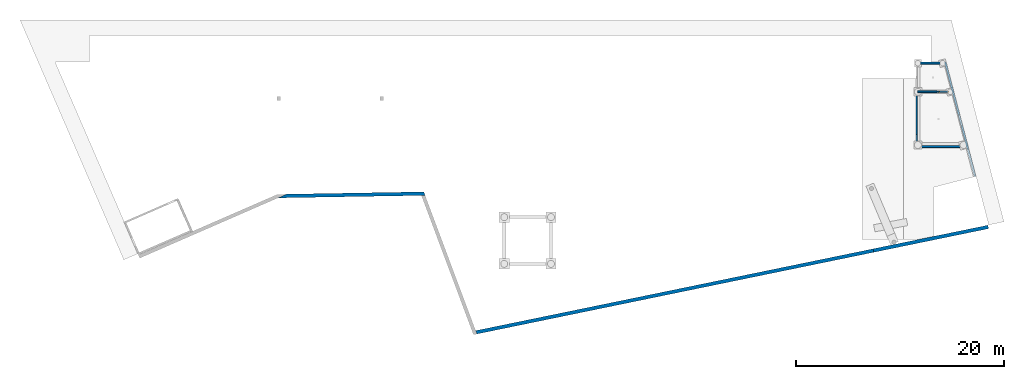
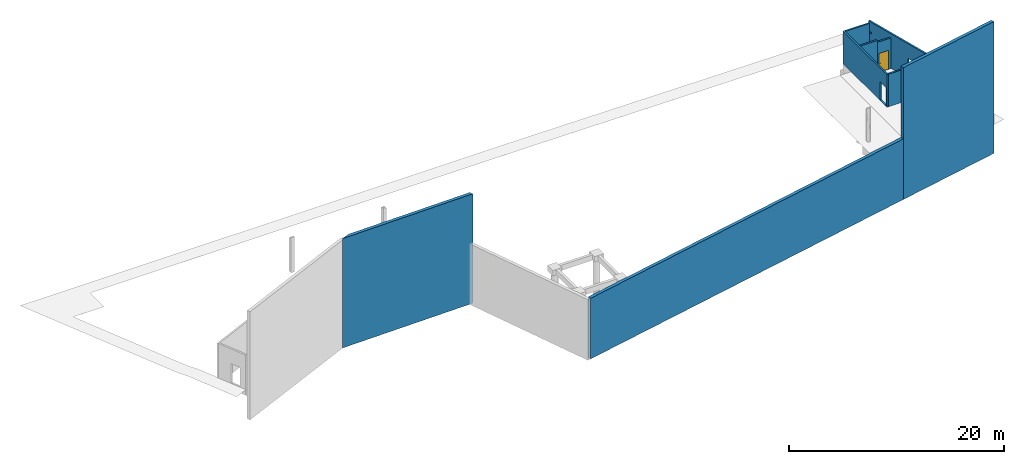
# One storey, part 2 of 5: 9 walls, 1 door, 10 openings.
"""IFC2X3 building model written with IfcOpenShell, lengths in centimetres."""

from ifc_helpers import new_model, entity, si_unit, converted_unit, derived_unit, direction, frame, frame_2d, origin, place, context, subcontext, project, spatial, polyline, rectangle, outline, extrude, faceted_brep, source, transform, mapped, material, material_list, layer, layer_set, layer_usage, type_object, type_shapes, element, fill, save


model = new_model("IFC2X3")

# Units and contexts
model_context = context("Model", 3, precision=0.001, world=origin(), true_north=direction((6.12303176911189e-17, 1.0)))
body_context = subcontext(model_context, "Body", "Model", "MODEL_VIEW")
ifc_project = project(units=[si_unit("LENGTHUNIT", "METRE", prefix="CENTI"), si_unit("AREAUNIT", "SQUARE_METRE"), si_unit("VOLUMEUNIT", "CUBIC_METRE"), converted_unit("PLANEANGLEUNIT", "DEGREE", entity("IfcRatioMeasure", 0.0174532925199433), si_unit("PLANEANGLEUNIT", "RADIAN"), dimensions=[0, 0, 0, 0, 0, 0, 0]), si_unit("MASSUNIT", "GRAM", prefix="KILO"), derived_unit("MASSDENSITYUNIT", [(si_unit("MASSUNIT", "GRAM", prefix="KILO"), 1), (si_unit("LENGTHUNIT", "METRE"), -3)]), si_unit("TIMEUNIT", "SECOND"), si_unit("FREQUENCYUNIT", "HERTZ"), si_unit("THERMODYNAMICTEMPERATUREUNIT", "DEGREE_CELSIUS"), derived_unit("THERMALTRANSMITTANCEUNIT", [(si_unit("MASSUNIT", "GRAM", prefix="KILO"), 1), (si_unit("THERMODYNAMICTEMPERATUREUNIT", "KELVIN"), -1), (si_unit("TIMEUNIT", "SECOND"), -3)]), derived_unit("VOLUMETRICFLOWRATEUNIT", [(si_unit("LENGTHUNIT", "METRE"), 3), (si_unit("TIMEUNIT", "SECOND"), -1)]), si_unit("ELECTRICCURRENTUNIT", "AMPERE"), si_unit("ELECTRICVOLTAGEUNIT", "VOLT"), si_unit("POWERUNIT", "WATT"), si_unit("FORCEUNIT", "NEWTON"), si_unit("ILLUMINANCEUNIT", "LUX"), si_unit("LUMINOUSFLUXUNIT", "LUMEN"), si_unit("LUMINOUSINTENSITYUNIT", "CANDELA"), derived_unit("USERDEFINED", [(si_unit("MASSUNIT", "GRAM", prefix="KILO"), -1), (si_unit("LENGTHUNIT", "METRE"), -2), (si_unit("TIMEUNIT", "SECOND"), 3), (si_unit("LUMINOUSFLUXUNIT", "LUMEN"), 1)]), derived_unit("LINEARVELOCITYUNIT", [(si_unit("LENGTHUNIT", "METRE"), 1), (si_unit("TIMEUNIT", "SECOND"), -1)]), si_unit("PRESSUREUNIT", "PASCAL"), derived_unit("USERDEFINED", [(si_unit("LENGTHUNIT", "METRE"), -2), (si_unit("MASSUNIT", "GRAM", prefix="KILO"), 1), (si_unit("TIMEUNIT", "SECOND"), -2)])], contexts=[model_context])

# Site, building, storey
site_placement = place(None, origin())
site = spatial("IfcSite", under=ifc_project, at=site_placement, Name="Default", CompositionType="ELEMENT")
building_placement = place(site_placement, origin())
building = spatial("IfcBuilding", under=site, at=building_placement, Name="CAGE 03", CompositionType="ELEMENT")
storey_placement = place(building_placement, frame((0.0, 0.0, -50.0)))
storey = spatial("IfcBuildingStorey", under=building, at=storey_placement, Name="+3.50", CompositionType="ELEMENT", Elevation=-50.0000000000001)

# Wall, opening
ifc_material_1 = material(Name="Béton, C25/30")
ifc_layer_1 = layer(ifc_material_1, 18.0)
ifc_layer_set_1 = layer_set([ifc_layer_1], Name="Mur de base:Voile BA 18")
ifc_layer_usage_1 = layer_usage(ifc_layer_set_1, "AXIS2", "POSITIVE", -9.0)
wall_type_1 = type_object("IfcWallType", Name="Mur de base:Voile BA 18", PredefinedType="STANDARD", material=ifc_layer_set_1)
wall_1_placement = place(storey_placement, frame((11037.3658201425, 5037.16066607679, -5.0), z_axis=(0.0, 0.0, 1.0), x_axis=(0.0, -1.0, 0.0)))
wall_1 = element("IfcWallStandardCase", 1, at=wall_1_placement, inside=storey, type_object=wall_type_1, material=ifc_layer_usage_1, Name="Mur de base:Voile BA 18", ObjectType="Mur de base:Voile BA 18", context=body_context, shape_type="SweptSolid", body=[
    extrude(rectangle(XDim=821.5, YDim=17.9999999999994, at=frame_2d((410.75, 1.53654866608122e-13), x_axis=(-1.0, 0.0))), origin(), (0.0, 0.0, 1.0), 372.0),
])
opening_1_placement = place(wall_1_placement, frame((5037.16066607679, -11037.3658201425, 0.0), z_axis=(0.0, 0.0, 1.0), x_axis=(0.0, 1.0, 0.0)))
element("IfcOpeningElement", 2, at=opening_1_placement, cuts=wall_1, Name="Mur de base:Voile BA 18", ObjectType="Opening", context=body_context, shape_type="SweptSolid", body=[
    extrude(rectangle(XDim=210.0, YDim=110.0, at=frame_2d((4.33431068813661e-13, 1.4210854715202e-14), x_axis=(0.0, 1.0))), frame((10893.9658201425, 4288.66066607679, 110.0), z_axis=(1.0, 0.0, 0.0), x_axis=(0.0, 1.0, 0.0)), (0.0, 0.0, 1.0), 304.8),
])

# Wall
ifc_layer_usage_2 = layer_usage(ifc_layer_set_1, "AXIS2", "POSITIVE", -9.0)
wall_2_placement = place(storey_placement, frame((11516.7413753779, 4224.66066607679, -5.0), z_axis=(0.0, 0.0, 1.0), x_axis=(-1.0, 0.0, 0.0)))
element("IfcWallStandardCase", 3, at=wall_2_placement, inside=storey, type_object=wall_type_1, material=ifc_layer_usage_2, Name="Mur de base:Voile BA 18", ObjectType="Mur de base:Voile BA 18", context=body_context, shape_type="SweptSolid", body=[
    extrude(outline(polyline([(470.375555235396, -9.0), (470.375555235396, 9.0), (0.0, 9.0), (4.70077462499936, -9.0), (470.375555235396, -9.0)])), origin(), (0.0, 0.0, 1.0), 372.0),
])

# Wall, opening, door
ifc_layer_usage_3 = layer_usage(ifc_layer_set_1, "AXIS2", "POSITIVE", -9.0)
wall_3_placement = place(storey_placement, frame((11378.8519863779, 4752.66066607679, -5.0), z_axis=(0.0, 0.0, 1.0), x_axis=(-1.0, 0.0, 0.0)))
wall_3 = element("IfcWallStandardCase", 4, at=wall_3_placement, inside=storey, type_object=wall_type_1, material=ifc_layer_usage_3, Name="Mur de base:Voile BA 18", ObjectType="Mur de base:Voile BA 18", context=body_context, shape_type="SweptSolid", body=[
    extrude(outline(polyline([(148.486166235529, -9.0), (148.486166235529, 9.0), (0.0, 9.0), (4.70077462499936, -9.0), (148.486166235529, -9.0)])), origin(), (0.0, 0.0, 1.0), 350.0),
])
opening_2_placement = place(wall_3_placement, frame((31.9861662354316, -9.0, 5.0)))
opening_2 = element("IfcOpeningElement", 5, at=opening_2_placement, cuts=wall_3, Name="Int. Simple:HB93:1", ObjectType="Opening", context=body_context, shape_type="SweptSolid", body=[
    extrude(rectangle(XDim=210.000000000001, YDim=96.9999999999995, at=frame_2d((105.000000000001, 48.4999999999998), x_axis=(1.0, 0.0))), frame((0.0, 0.0, 0.0), z_axis=(0.0, 1.0, 0.0), x_axis=(0.0, 0.0, 1.0)), (0.0, 0.0, 1.0), 18.0),
])
ifc_material_2 = material(Name="Finition Peinture - Blanc satiné")
ifc_material_3 = material(Name="Bois - Panneau de porte")
ifc_material_4 = material(Name="Bois - Cadre de porte")
ifc_material_list_1 = material_list([ifc_material_2, ifc_material_3, ifc_material_4])
ifc_material_list_2 = material_list([ifc_material_2, ifc_material_3, ifc_material_4])
door_style = type_object("IfcDoorStyle", Name="HB93", ConstructionType="NOTDEFINED", OperationType="SINGLE_SWING_LEFT", ParameterTakesPrecedence=False, Sizeable=False, material=ifc_material_list_2)
shared_shape = source(origin(), body_context, "Body", "Brep", [
    faceted_brep([(10.5352761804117, -0.500000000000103, 86.6003983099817), (11.5000000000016, -0.500000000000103, 87.0), (11.5000000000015, -0.500000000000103, 108.0), (10.5352761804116, -0.500000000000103, 108.399601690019), (9.50000000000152, -0.500000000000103, 108.535898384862), (8.46472381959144, -0.500000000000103, 108.399601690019), (7.50000000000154, -0.500000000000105, 108.0), (7.50000000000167, -0.500000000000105, 87.0), (8.46472381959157, -0.500000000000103, 86.6003983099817), (9.50000000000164, -0.500000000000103, 86.464101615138), (10.5352761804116, 0.0, 108.399601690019), (11.5000000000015, 0.0, 108.0), (11.5000000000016, 0.0, 87.0), (10.5352761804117, 0.0, 86.6003983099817), (9.50000000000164, 0.0, 86.464101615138), (8.46472381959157, 0.0, 86.6003983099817), (7.50000000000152, 0.0, 87.0), (7.50000000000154, 0.0, 108.0), (8.46472381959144, 0.0, 108.399601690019), (9.50000000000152, 0.0, 108.535898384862)], [[[0, 1, 2, 3, 4, 5, 6, 7, 8, 9]], [[10, 11, 12, 13, 14, 15, 16, 17, 18, 19]], [[16, 15, 8, 7]], [[8, 15, 14, 9]], [[14, 13, 0, 9]], [[13, 12, 1, 0]], [[2, 1, 12, 11]], [[11, 10, 3, 2]], [[3, 10, 19, 4]], [[19, 18, 5, 4]], [[18, 17, 6, 5]], [[7, 6, 17, 16]]]),
    faceted_brep([(10.5352761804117, 4.0, 86.6003983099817), (11.5000000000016, 4.0, 87.0), (11.5000000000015, 4.0, 108.0), (10.5352761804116, 4.0, 108.399601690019), (9.50000000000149, 4.0, 108.535898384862), (8.46472381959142, 4.0, 108.399601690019), (7.50000000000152, 4.0, 108.0), (7.50000000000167, 4.0, 87.0), (8.46472381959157, 4.0, 86.6003983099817), (9.50000000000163, 4.0, 86.464101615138), (10.5352761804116, 4.49999999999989, 108.399601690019), (11.5000000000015, 4.4999999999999, 108.0), (11.5000000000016, 4.4999999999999, 87.0), (10.5352761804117, 4.49999999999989, 86.6003983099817), (9.50000000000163, 4.49999999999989, 86.464101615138), (8.46472381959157, 4.49999999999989, 86.6003983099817), (7.50000000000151, 4.49999999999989, 87.0), (7.50000000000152, 4.49999999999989, 108.0), (8.46472381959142, 4.49999999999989, 108.399601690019), (9.50000000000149, 4.49999999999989, 108.535898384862)], [[[0, 1, 2, 3, 4, 5, 6, 7, 8, 9]], [[10, 11, 12, 13, 14, 15, 16, 17, 18, 19]], [[11, 10, 3, 2]], [[3, 10, 19, 4]], [[19, 18, 5, 4]], [[18, 17, 6, 5]], [[7, 6, 17, 16]], [[16, 15, 8, 7]], [[8, 15, 14, 9]], [[14, 13, 0, 9]], [[13, 12, 1, 0]], [[2, 1, 12, 11]]]),
    faceted_brep([(9.29747013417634, -0.500000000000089, 100.778044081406), (9.70252986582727, -0.500000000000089, 100.778044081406), (10.1000000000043, -0.500000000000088, 100.699999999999), (10.1000000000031, -0.500000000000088, 99.3000000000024), (9.70252986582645, -0.500000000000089, 99.2219559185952), (9.29747013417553, -0.500000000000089, 99.221955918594), (8.89999999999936, -0.500000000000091, 99.2999999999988), (8.89999999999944, -0.500000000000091, 100.7), (8.89999999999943, -3.26509507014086, 100.7), (9.29747013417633, -3.10045754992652, 100.778044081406), (10.9023585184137, -4.70534593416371, 100.778044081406), (11.0701397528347, -4.30028620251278, 100.778044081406), (9.70252986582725, -2.93267631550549, 100.778044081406), (10.1000000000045, -2.76803879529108, 100.7), (10.1000000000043, -2.76803879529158, 99.3000000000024), (9.70252986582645, -2.93267631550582, 99.2219559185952), (11.0701397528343, -4.30028620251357, 99.2219559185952), (10.9023585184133, -4.70534593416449, 99.221955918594), (9.29747013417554, -3.10045754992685, 99.221955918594), (8.89999999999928, -3.26509507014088, 99.2999999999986), (10.7377209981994, -5.1028160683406, 100.7), (11.2347772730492, -3.90281606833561, 100.7), (11.2347772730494, -3.90281606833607, 99.3000000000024), (10.7377209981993, -5.10281606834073, 99.2999999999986), (19.5018640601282, -5.1028160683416, 99.2999999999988), (19.5018640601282, -4.70534593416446, 99.221955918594), (19.5018640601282, -4.30028620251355, 99.2219559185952), (19.5018640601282, -3.90281606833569, 99.3000000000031), (19.5018640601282, -3.90281606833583, 100.7), (19.5018640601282, -4.30028620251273, 100.778044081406), (19.5018640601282, -4.70534593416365, 100.778044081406), (19.5018640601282, -5.10281606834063, 100.699999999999), (14.7307697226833, -5.10281606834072, 100.7), (15.28600190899, -4.5028160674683, 100.78786867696), (15.3683206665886, -3.9028160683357, 100.7), (15.3683206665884, -3.90281606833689, 99.3000000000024), (15.2860018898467, -4.50281607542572, 99.2121313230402), (14.7307700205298, -5.10281606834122, 99.2999999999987)], [[[0, 1, 2, 3, 4, 5, 6, 7]], [[8, 9, 0, 7]], [[9, 10, 11, 12, 1, 0]], [[12, 13, 2, 1]], [[3, 2, 13, 14]], [[14, 15, 4, 3]], [[15, 16, 17, 18, 5, 4]], [[18, 19, 6, 5]], [[7, 6, 19, 8]], [[20, 10, 9, 8]], [[11, 21, 13, 12]], [[14, 13, 21, 22]], [[22, 16, 15, 14]], [[17, 23, 19, 18]], [[8, 19, 23, 20]], [[24, 25, 26, 27, 28, 29, 30, 31]], [[32, 30, 33]], [[31, 30, 32]], [[10, 20, 32]], [[33, 34, 11]], [[21, 11, 34]], [[34, 29, 28]], [[30, 29, 33]], [[29, 34, 33]], [[10, 32, 33]], [[10, 33, 11]], [[22, 21, 34, 28, 27, 35]], [[35, 26, 36]], [[37, 36, 25]], [[22, 35, 16]], [[35, 27, 26]], [[24, 37, 25]], [[23, 17, 37]], [[37, 17, 36]], [[17, 16, 36]], [[16, 35, 36]], [[25, 36, 26]], [[20, 23, 37, 24, 31, 32]]]),
    faceted_brep([(9.29747013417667, 4.49999999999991, 100.778044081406), (8.89999999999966, 4.49999999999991, 100.7), (8.89999999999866, 4.49999999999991, 99.2999999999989), (9.2974701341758, 4.49999999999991, 99.221955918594), (9.70252986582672, 4.49999999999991, 99.2219559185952), (10.1000000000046, 4.49999999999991, 99.3000000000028), (10.1000000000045, 4.49999999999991, 100.7), (9.70252986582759, 4.49999999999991, 100.778044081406), (10.1000000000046, 6.7485204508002, 99.3000000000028), (10.1000000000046, 6.74852045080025, 100.7), (9.70252986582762, 6.91315797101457, 100.778044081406), (11.0838906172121, 8.29451872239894, 100.778044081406), (10.9161093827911, 8.69957845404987, 100.778044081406), (9.29747013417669, 7.0809392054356, 100.778044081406), (8.89999999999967, 7.24557672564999, 100.7), (8.89999999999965, 7.24557672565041, 99.2999999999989), (9.29747013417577, 7.08093920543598, 99.221955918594), (10.9161093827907, 8.69957845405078, 99.221955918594), (11.0838906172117, 8.29451872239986, 99.2219559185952), (9.7025298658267, 6.91315797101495, 99.2219559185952), (11.2485281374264, 7.89704858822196, 99.3000000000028), (11.2485281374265, 7.89704858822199, 100.7), (10.7514718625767, 9.0970485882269, 100.7), (10.751471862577, 9.0970485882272, 99.2999999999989), (19.504578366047, 7.89704858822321, 99.3000000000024), (19.504578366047, 8.29451872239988, 99.2219559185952), (19.504578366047, 8.6995784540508, 99.221955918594), (19.504578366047, 9.09704858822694, 99.2999999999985), (19.504578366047, 9.09704858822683, 100.7), (19.504578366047, 8.69957845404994, 100.778044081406), (19.504578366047, 8.29451872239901, 100.778044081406), (19.504578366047, 7.89704858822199, 100.7), (15.3765520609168, 7.89704858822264, 99.3000000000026), (15.3765532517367, 7.89704858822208, 100.7), (15.294234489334, 8.49704858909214, 100.78786867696), (14.7445205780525, 9.09704858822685, 100.7), (14.7445204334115, 9.09704858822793, 99.2999999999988), (15.2942345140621, 8.49704858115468, 99.2121313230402)], [[[0, 1, 2, 3, 4, 5, 6, 7]], [[6, 5, 8, 9]], [[9, 10, 7, 6]], [[10, 11, 12, 13, 0, 7]], [[13, 14, 1, 0]], [[2, 1, 14, 15]], [[15, 16, 3, 2]], [[16, 17, 18, 19, 4, 3]], [[19, 8, 5, 4]], [[9, 8, 20, 21]], [[21, 11, 10, 9]], [[12, 22, 14, 13]], [[15, 14, 22, 23]], [[23, 17, 16, 15]], [[18, 20, 8, 19]], [[24, 25, 26, 27, 28, 29, 30, 31]], [[21, 20, 32, 24, 31, 33]], [[33, 30, 34]], [[35, 34, 29]], [[21, 33, 11]], [[33, 31, 30]], [[28, 35, 29]], [[22, 12, 35]], [[35, 12, 34]], [[12, 11, 34]], [[11, 33, 34]], [[29, 34, 30]], [[22, 35, 28, 27, 36, 23]], [[36, 26, 37]], [[27, 26, 36]], [[17, 23, 36]], [[37, 32, 18]], [[20, 18, 32]], [[32, 25, 24]], [[26, 25, 37]], [[25, 32, 37]], [[17, 36, 37]], [[17, 37, 18]]]),
    faceted_brep([(3.50000000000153, 4.0, 206.5), (93.5000000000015, 4.0, 206.5), (93.5000000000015, 4.0, 0.0), (3.50000000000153, 4.0, 0.0), (3.50000000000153, 0.0, 206.5), (3.50000000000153, 0.0, 0.0), (93.5000000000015, 0.0, 0.0), (93.5000000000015, 0.0, 206.5)], [[[0, 1, 2, 3]], [[4, 5, 6, 7]], [[1, 0, 4, 7]], [[2, 1, 7, 6]], [[3, 2, 6, 5]], [[0, 3, 5, 4]]]),
    faceted_brep([(0.0, 0.0, 0.0), (0.0, 18.0, 0.0), (5.0, 18.0, 0.0), (5.0, 4.0, 0.0), (3.50000000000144, 4.0, 0.0), (3.50000000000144, 0.0, 0.0), (0.0, 0.0, 210.0), (0.0, 18.0, 210.0), (97.0, 18.0, 210.0), (97.0, 18.0, 0.0), (92.0, 18.0, 0.0), (92.0, 18.0, 205.0), (5.0, 18.0, 205.0), (5.0, 4.0, 205.0), (92.0, 4.0, 205.0), (92.0, 4.0, 0.0), (93.4999999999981, 4.0, 0.0), (93.4999999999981, 4.0, 206.5), (3.50000000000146, 4.0, 206.5), (3.50000000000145, 0.0, 206.5), (93.4999999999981, 0.0, 206.5), (93.4999999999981, 0.0, 0.0), (97.0, 0.0, 0.0), (97.0, 0.0, 210.0)], [[[0, 1, 2, 3, 4, 5]], [[1, 0, 6, 7]], [[2, 1, 7, 8, 9, 10, 11, 12]], [[3, 2, 12, 13]], [[4, 3, 13, 14, 15, 16, 17, 18]], [[5, 4, 18, 19]], [[0, 5, 19, 20, 21, 22, 23, 6]], [[8, 23, 22, 9]], [[22, 21, 16, 15, 10, 9]], [[14, 11, 10, 15]], [[20, 17, 16, 21]], [[7, 6, 23, 8]], [[13, 12, 11, 14]], [[19, 18, 17, 20]]]),
    faceted_brep([(1.5, 18.0, 0.0), (-1.49999999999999, 18.0, 0.0), (-1.49999999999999, 18.5000000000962, 0.0), (1.5, 18.5000000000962, 0.0), (1.5, 18.0, 208.500000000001), (95.4999999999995, 18.0, 208.500000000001), (95.4999999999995, 18.0, 0.0), (98.4999999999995, 18.0, 0.0), (98.4999999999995, 18.0, 211.500000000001), (-1.49999999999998, 18.0, 211.500000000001), (-1.49999999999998, 18.5000000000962, 211.500000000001), (98.4999999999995, 18.5000000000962, 211.500000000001), (98.4999999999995, 18.5000000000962, 0.0), (95.4999999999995, 18.5000000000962, 0.0), (95.4999999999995, 18.5000000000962, 208.500000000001), (1.50000000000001, 18.5000000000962, 208.500000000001)], [[[0, 1, 2, 3]], [[1, 0, 4, 5, 6, 7, 8, 9]], [[2, 1, 9, 10]], [[3, 2, 10, 11, 12, 13, 14, 15]], [[0, 3, 15, 4]], [[6, 13, 12, 7]], [[5, 14, 13, 6]], [[11, 8, 7, 12]], [[10, 9, 8, 11]], [[4, 15, 14, 5]]]),
    faceted_brep([(-1.49999999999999, -0.5, 0.0), (1.5, -0.5, 0.0), (1.5, -0.5, 208.500000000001), (95.4999999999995, -0.5, 208.500000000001), (95.4999999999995, -0.5, 0.0), (98.4999999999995, -0.5, 0.0), (98.4999999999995, -0.5, 211.500000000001), (-1.49999999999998, -0.5, 211.500000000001), (-1.49999999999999, 0.0, 0.0), (-1.49999999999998, 0.0, 211.500000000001), (1.5, 0.0, 0.0), (98.4999999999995, 0.0, 211.500000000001), (98.4999999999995, 0.0, 0.0), (95.4999999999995, 0.0, 0.0), (95.4999999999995, 0.0, 208.500000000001), (1.50000000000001, 0.0, 208.500000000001)], [[[0, 1, 2, 3, 4, 5, 6, 7]], [[8, 0, 7, 9]], [[10, 8, 9, 11, 12, 13, 14, 15]], [[1, 10, 15, 2]], [[3, 14, 13, 4]], [[11, 6, 5, 12]], [[9, 7, 6, 11]], [[2, 15, 14, 3]], [[4, 13, 12, 5]], [[1, 0, 8, 10]]]),
])
type_shapes(door_style, [shared_shape])
door_placement = place(opening_2_placement, frame((97.0, 18.0, 0.0), z_axis=(0.0, 0.0, 1.0), x_axis=(-1.0, 0.0, 0.0)))
door = element("IfcDoor", 6, at=door_placement, inside=storey, type_object=door_style, material=ifc_material_list_1, Name="Int. Simple:HB93", ObjectType="HB93", OverallHeight=210.000000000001, OverallWidth=96.9999999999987, context=body_context, shape_type="MappedRepresentation", body=[
    mapped(shared_shape, transform((0.0, 0.0, 0.0), scale=1.0)),
])
fill(opening_2, door)

# Wall, opening
ifc_layer_usage_4 = layer_usage(ifc_layer_set_1, "AXIS2", "POSITIVE", -9.0)
wall_4_placement = place(storey_placement, frame((11306.9040192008, 5028.16066607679, -5.0), z_axis=(0.0, 0.0, 1.0), x_axis=(-1.0, 0.0, 0.0)))
wall_4 = element("IfcWallStandardCase", 7, at=wall_4_placement, inside=storey, type_object=wall_type_1, material=ifc_layer_usage_4, Name="Mur de base:Voile BA 18", ObjectType="Mur de base:Voile BA 18", context=body_context, shape_type="SweptSolid", body=[
    extrude(outline(polyline([(0.0, 9.0), (4.70077462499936, -9.0), (130.538199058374, -9.0), (206.038199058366, -9.0), (251.038199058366, -9.0), (260.538199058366, -9.0), (260.538199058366, 9.0), (238.538199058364, 9.0), (0.0, 9.0)])), origin(), (0.0, 0.0, 1.0), 372.0),
])
opening_3_placement = place(wall_4_placement, origin())
element("IfcOpeningElement", 8, at=opening_3_placement, cuts=wall_4, Name="Mur de base:Voile BA 18", ObjectType="Opening", context=body_context, shape_type="SweptSolid", body=[
    extrude(rectangle(XDim=319.0, YDim=17.9999999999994, at=frame_2d((0.0, 0.0), x_axis=(0.0, 1.0))), frame((139.538199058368, -247.499999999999, 172.5), z_axis=(0.0, 1.0, 0.0), x_axis=(-1.0, 0.0, 0.0)), (0.0, 0.0, 1.0), 238.499999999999),
])

# Wall
ifc_layer_usage_5 = layer_usage(ifc_layer_set_1, "AXIS2", "POSITIVE", -9.0)
wall_5_placement = place(storey_placement, frame((11230.3658201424, 4752.66066607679, -5.0), z_axis=(0.0, 0.0, 1.0), x_axis=(-1.0, 0.0, 0.0)))
element("IfcWallStandardCase", 9, at=wall_5_placement, inside=storey, type_object=wall_type_1, material=ifc_layer_usage_5, Name="Mur de base:Voile BA 18", ObjectType="Mur de base:Voile BA 18", context=body_context, shape_type="SweptSolid", body=[
    extrude(rectangle(XDim=183.999999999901, YDim=17.9999999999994, at=frame_2d((91.9999999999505, -1.4388490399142e-13), x_axis=(-1.0, 0.0))), origin(), (0.0, 0.0, 1.0), 372.0),
])

# Wall, openings
ifc_layer_usage_6 = layer_usage(ifc_layer_set_1, "AXIS2", "POSITIVE", -9.0)
wall_6_placement = place(storey_placement, frame((11598.6999824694, 3937.4465797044, -5.0), z_axis=(0.0, 0.0, 1.0), x_axis=(-0.252679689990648, 0.967549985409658, 0.0)))
wall_6 = element("IfcWallStandardCase", 10, at=wall_6_placement, inside=storey, type_object=wall_type_1, material=ifc_layer_usage_6, Name="Mur de base:Voile BA 18", ObjectType="Mur de base:Voile BA 18", context=body_context, shape_type="SweptSolid", body=[
    extrude(outline(polyline([(1134.24627741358, -9.0), (1138.94705203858, 9.0), (1120.34336202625, 9.0), (860.408471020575, 9.0), (854.207241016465, 9.0), (842.952279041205, 9.0), (835.603551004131, 9.0), (341.57222734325, 9.0), (308.499000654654, 9.0), (289.895310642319, 9.0), (0.0, 9.0), (0.0, -9.0), (314.81419035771, -9.0), (842.952279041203, -9.0), (1134.24627741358, -9.0)])), origin(), (0.0, 0.0, 1.0), 395.0),
])
opening_4_placement = place(storey_placement, frame((11598.6999824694, 3937.4465797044, -5.0), z_axis=(0.0, 0.0, 1.0), x_axis=(-0.252679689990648, 0.967549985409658, 0.0)))
element("IfcOpeningElement", 11, at=opening_4_placement, cuts=wall_6, Name="Mur de base:Voile BA 18:1", ObjectType="Opening", context=body_context, shape_type="SweptSolid", body=[
    extrude(rectangle(XDim=17.9999999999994, YDim=21.9999999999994, at=frame_2d((-7.98117127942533e-12, 2.93987056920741e-13), x_axis=(1.0, 0.0))), frame((356.500000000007, 0.0, 263.0), z_axis=(0.0, 0.0, 1.0), x_axis=(0.0, 1.0, 0.0)), (0.0, 0.0, 1.0), 18.0),
])
opening_5_placement = place(storey_placement, frame((11598.6999824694, 3937.4465797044, -5.0), z_axis=(0.0, 0.0, 1.0), x_axis=(-0.252679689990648, 0.967549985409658, 0.0)))
element("IfcOpeningElement", 12, at=opening_5_placement, cuts=wall_6, Name="Mur de base:Voile BA 18:2", ObjectType="Opening", context=body_context, shape_type="SweptSolid", body=[
    extrude(rectangle(XDim=17.9999999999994, YDim=21.9999999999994, at=frame_2d((-2.51443310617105e-12, 6.57252030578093e-13), x_axis=(1.0, 0.0))), frame((1106.5, 0.0, 263.0), z_axis=(0.0, 0.0, 1.0), x_axis=(0.0, 1.0, 0.0)), (0.0, 0.0, 1.0), 18.0),
])
opening_6_placement = place(wall_6_placement, origin())
element("IfcOpeningElement", 13, at=opening_6_placement, cuts=wall_6, Name="Mur de base:Voile BA 18", ObjectType="Recess", context=body_context, shape_type="SweptSolid", body=[
    extrude(rectangle(XDim=50.0000000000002, YDim=110.0, at=frame_2d((-6.3593574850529e-13, -1.24344978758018e-14), x_axis=(0.0, 1.0))), frame((559.0, -9.0, 250.0), z_axis=(0.0, 1.0, 0.0), x_axis=(1.0, 0.0, 0.0)), (0.0, 0.0, 1.0), 2.00000000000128),
])
opening_7_placement = place(wall_6_placement, origin())
element("IfcOpeningElement", 14, at=opening_7_placement, cuts=wall_6, Name="Mur de base:Voile BA 18", ObjectType="Opening", context=body_context, shape_type="SweptSolid", body=[
    extrude(rectangle(XDim=210.000000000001, YDim=18.0000000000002, at=frame_2d((-4.33431068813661e-13, 0.0), x_axis=(0.0, 1.0))), frame((852.393755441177, 37.6740974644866, 110.0), z_axis=(0.252679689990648, 0.967549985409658, 0.0), x_axis=(0.967549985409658, -0.252679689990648, 0.0)), (0.0, 0.0, 1.0), 97.0),
])
opening_8_placement = place(wall_6_placement, origin())
element("IfcOpeningElement", 15, at=opening_8_placement, cuts=wall_6, Name="Mur de base:Voile BA 18", ObjectType="Recess", context=body_context, shape_type="SweptSolid", body=[
    extrude(rectangle(XDim=35.5000000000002, YDim=113.5, at=frame_2d((4.19220214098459e-13, -1.4210854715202e-14), x_axis=(0.0, 1.0))), frame((-317.750000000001, -9.0, 257.25), z_axis=(0.0, 1.0, 0.0), x_axis=(1.0, 0.0, 0.0)), (0.0, 0.0, 1.0), 1.99999999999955),
])
opening_9_placement = place(wall_6_placement, frame((-878.920464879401, 12217.2347799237, 0.0), z_axis=(0.0, 0.0, 1.0), x_axis=(-0.252679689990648, -0.967549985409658, 0.0)))
element("IfcOpeningElement", 16, at=opening_9_placement, cuts=wall_6, Name="Mur de base:Voile BA 18", ObjectType="Opening", context=body_context, shape_type="SweptSolid", body=[
    extrude(rectangle(XDim=220.0, YDim=109.999999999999, at=frame_2d((-2.16715534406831e-13, 0.0), x_axis=(0.0, 1.0))), frame((11596.1987036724, 4514.54128909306, 115.0), z_axis=(-0.967549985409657, -0.252679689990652, 0.0), x_axis=(0.252679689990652, -0.967549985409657, 0.0)), (0.0, 0.0, 1.0), 304.8),
])
opening_10_placement = place(wall_6_placement, frame((-878.920464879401, 12217.2347799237, 5.0), z_axis=(0.0, 0.0, 1.0), x_axis=(-0.252679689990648, -0.967549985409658, 0.0)))
element("IfcOpeningElement", 17, at=opening_10_placement, cuts=wall_6, Name="Mur de base:Voile BA 18", ObjectType="Opening", context=body_context, shape_type="SweptSolid", body=[
    extrude(rectangle(XDim=270.0, YDim=250.0, at=frame_2d((0.0, 0.0), x_axis=(0.0, 1.0))), frame((11701.8188140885, 4110.10539519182, 135.0), z_axis=(-0.967549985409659, -0.252679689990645, 0.0), x_axis=(0.252679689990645, -0.967549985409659, 0.0)), (0.0, 0.0, 1.0), 304.8),
])

# Walls
ifc_material_5 = material(Name="Existant")
ifc_layer_2 = layer(ifc_material_5, 34.0)
ifc_layer_set_2 = layer_set([ifc_layer_2], Name="Mur de base:Mur existant")
ifc_layer_usage_7 = layer_usage(ifc_layer_set_2, "AXIS2", "NEGATIVE", 17.0)
wall_type_2 = type_object("IfcWallType", Name="Mur de base:Mur existant", PredefinedType="STANDARD", material=ifc_layer_set_2)
wall_7_placement = place(storey_placement, frame((4891.36353354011, 3748.81150096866, -300.0), z_axis=(0.0, 0.0, 1.0), x_axis=(0.999853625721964, 0.0171092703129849, 0.0)))
element("IfcWallStandardCase", 18, at=wall_7_placement, inside=storey, type_object=wall_type_2, material=ifc_layer_usage_7, Name="Mur de base:Mur existant", ObjectType="Mur de base:Mur existant", context=body_context, shape_type="SweptSolid", body=[
    extrude(outline(polyline([(1414.58544747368, -17.0), (1402.52916903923, 17.0), (81.8258617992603, 17.0), (0.0, -17.0), (1378.51116508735, -17.0), (1414.58544747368, -17.0)])), origin(), (0.0, 0.0, 1.0), 1245.0),
])
ifc_layer_usage_8 = layer_usage(ifc_layer_set_2, "AXIS2", "NEGATIVE", 17.0)
wall_8_placement = place(storey_placement, frame((6796.31560368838, 2437.53749198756, -300.0), z_axis=(0.0, 0.0, 1.0), x_axis=(0.979452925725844, 0.201672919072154, 0.0)))
element("IfcWallStandardCase", 19, at=wall_8_placement, inside=storey, type_object=wall_type_2, material=ifc_layer_usage_8, Name="Mur de base:Mur existant", ObjectType="Mur de base:Mur existant", context=body_context, shape_type="SweptSolid", body=[
    extrude(outline(polyline([(3904.37815814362, -17.0), (3904.37815814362, 17.0), (0.0, 17.0), (5.30593384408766, -17.0), (3904.37815814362, -17.0)])), origin(), (0.0, 0.0, 1.0), 690.0),
])
ifc_layer_usage_9 = layer_usage(ifc_layer_set_2, "AXIS2", "NEGATIVE", 17.0)
wall_9_placement = place(storey_placement, frame((10620.4702138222, 3224.94483230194, -300.0), z_axis=(0.0, 0.0, 1.0), x_axis=(0.979452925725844, 0.201672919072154, 0.0)))
element("IfcWallStandardCase", 20, at=wall_9_placement, inside=storey, type_object=wall_type_2, material=ifc_layer_usage_9, Name="Mur de base:Mur existant", ObjectType="Mur de base:Mur existant", context=body_context, shape_type="SweptSolid", body=[
    extrude(rectangle(XDim=1128.06827373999, YDim=34.0000000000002, at=frame_2d((564.034136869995, -5.32907051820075e-14), x_axis=(-1.0, 0.0))), origin(), (0.0, 0.0, 1.0), 1500.0),
])

save(model, "model.ifc")
